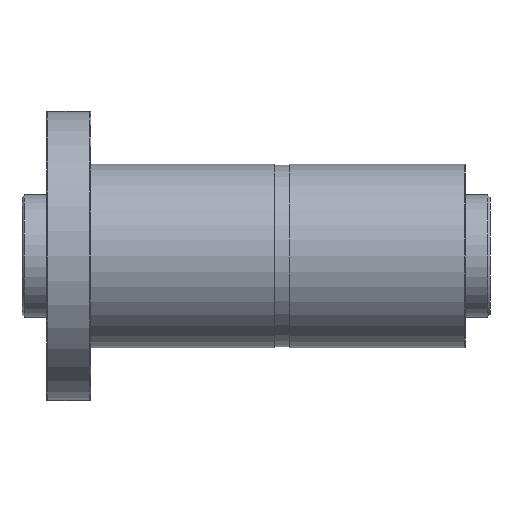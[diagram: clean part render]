
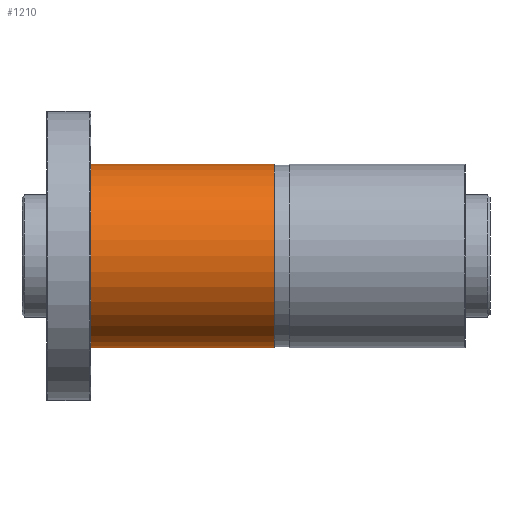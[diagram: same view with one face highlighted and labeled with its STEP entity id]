
A CAD part, front view. The second image highlights one B-rep face of the part: STEP entity #1210.
In plain terms, the highlighted cylindrical face has radius 37.5 mm (diameter 75 mm), a partial arc.
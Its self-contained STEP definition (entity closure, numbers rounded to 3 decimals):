
#133 = AXIS2_PLACEMENT_3D ( 'NONE', #1750, #4115, #4063 ) ;
#185 = VERTEX_POINT ( 'NONE', #507 ) ;
#285 = CARTESIAN_POINT ( 'NONE',  ( 93., 0., -37.5 ) ) ;
#332 = EDGE_CURVE ( 'NONE', #2479, #2144, #2820, .T. ) ;
#507 = CARTESIAN_POINT ( 'NONE',  ( 93., 0., -37.5 ) ) ;
#527 = EDGE_CURVE ( 'NONE', #2479, #185, #3447, .T. ) ;
#637 = CARTESIAN_POINT ( 'NONE',  ( 93., 0., 37.5 ) ) ;
#902 = DIRECTION ( 'NONE',  ( -1., 0., 0. ) ) ;
#965 = DIRECTION ( 'NONE',  ( -1., 0., 0. ) ) ;
#1210 = ADVANCED_FACE ( 'NONE', ( #3707 ), #3075, .T. ) ;
#1308 = DIRECTION ( 'NONE',  ( 0., 0., 1. ) ) ;
#1317 = VERTEX_POINT ( 'NONE', #3240 ) ;
#1434 = AXIS2_PLACEMENT_3D ( 'NONE', #4393, #2360, #1308 ) ;
#1445 = DIRECTION ( 'NONE',  ( 0., 0., -1. ) ) ;
#1750 = CARTESIAN_POINT ( 'NONE',  ( 93., 0., 0. ) ) ;
#2144 = VERTEX_POINT ( 'NONE', #3074 ) ;
#2360 = DIRECTION ( 'NONE',  ( -1., 0., 0. ) ) ;
#2415 = ORIENTED_EDGE ( 'NONE', *, *, #3092, .F. ) ;
#2479 = VERTEX_POINT ( 'NONE', #637 ) ;
#2634 = ORIENTED_EDGE ( 'NONE', *, *, #332, .T. ) ;
#2654 = ORIENTED_EDGE ( 'NONE', *, *, #527, .F. ) ;
#2717 = EDGE_CURVE ( 'NONE', #185, #1317, #2901, .T. ) ;
#2820 = LINE ( 'NONE', #4346, #3347 ) ;
#2856 = CARTESIAN_POINT ( 'NONE',  ( 93., 0., 0. ) ) ;
#2901 = LINE ( 'NONE', #285, #3054 ) ;
#3054 = VECTOR ( 'NONE', #902, 1000. ) ;
#3074 = CARTESIAN_POINT ( 'NONE',  ( 18., 0., 37.5 ) ) ;
#3075 = CYLINDRICAL_SURFACE ( 'NONE', #133, 37.5 ) ;
#3092 = EDGE_CURVE ( 'NONE', #1317, #2144, #4055, .T. ) ;
#3240 = CARTESIAN_POINT ( 'NONE',  ( 18., 0., -37.5 ) ) ;
#3324 = EDGE_LOOP ( 'NONE', ( #3427, #2654, #2634, #2415 ) ) ;
#3347 = VECTOR ( 'NONE', #965, 1000. ) ;
#3427 = ORIENTED_EDGE ( 'NONE', *, *, #2717, .F. ) ;
#3447 = CIRCLE ( 'NONE', #4135, 37.5 ) ;
#3468 = DIRECTION ( 'NONE',  ( 1., 0., 0. ) ) ;
#3707 = FACE_OUTER_BOUND ( 'NONE', #3324, .T. ) ;
#4055 = CIRCLE ( 'NONE', #1434, 37.5 ) ;
#4063 = DIRECTION ( 'NONE',  ( 0., 0., 1. ) ) ;
#4115 = DIRECTION ( 'NONE',  ( -1., 0., 0. ) ) ;
#4135 = AXIS2_PLACEMENT_3D ( 'NONE', #2856, #3468, #1445 ) ;
#4346 = CARTESIAN_POINT ( 'NONE',  ( 93., 0., 37.5 ) ) ;
#4393 = CARTESIAN_POINT ( 'NONE',  ( 18., 0., 0. ) ) ;
